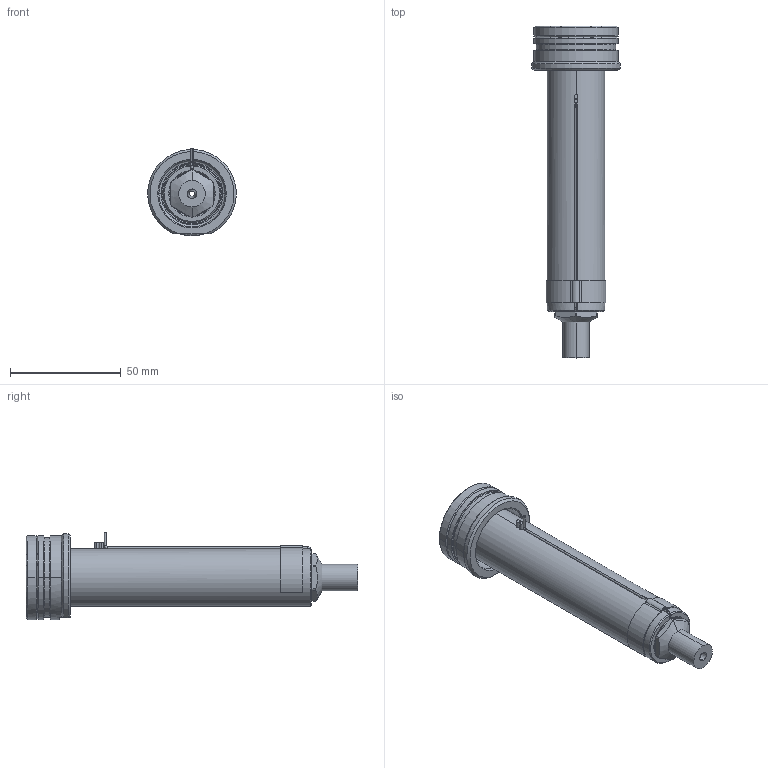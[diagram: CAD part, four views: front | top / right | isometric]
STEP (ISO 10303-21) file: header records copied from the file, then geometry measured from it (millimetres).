
FILE_DESCRIPTION((''),'2;1');
FILE_NAME('EO08_VG-FBE_WR_120_SW','2024-02-19T13:56:53',('sundharh'),(''),'CREO PARAMETRIC BY PTC INC, 2023154','CREO PARAMETRIC BY PTC INC, 2023154','');
FILE_SCHEMA(('CONFIG_CONTROL_DESIGN'));
Length unit declared in the file: millimetre
Products named in the file (1): EO08_VG-FBE_WR_120_SW
Bounding box: 39.88 x 150 x 39.52 mm (x, y, z)
Volume: 74607.4 mm3; surface area: 21998.7 mm2
Topology: 1 solids, 1 shells, 204 faces, 498 edges, 301 vertices
Faces by surface type: cylinder 72, plane 46, cone 43, torus 29, bspline 12, sphere 2
Entity records: 7373 total; most frequent: CARTESIAN_POINT 2473, DIRECTION 1099, ORIENTED_EDGE 988, EDGE_CURVE 494, AXIS2_PLACEMENT_3D 462, VERTEX_POINT 301, CIRCLE 270, EDGE_LOOP 221
